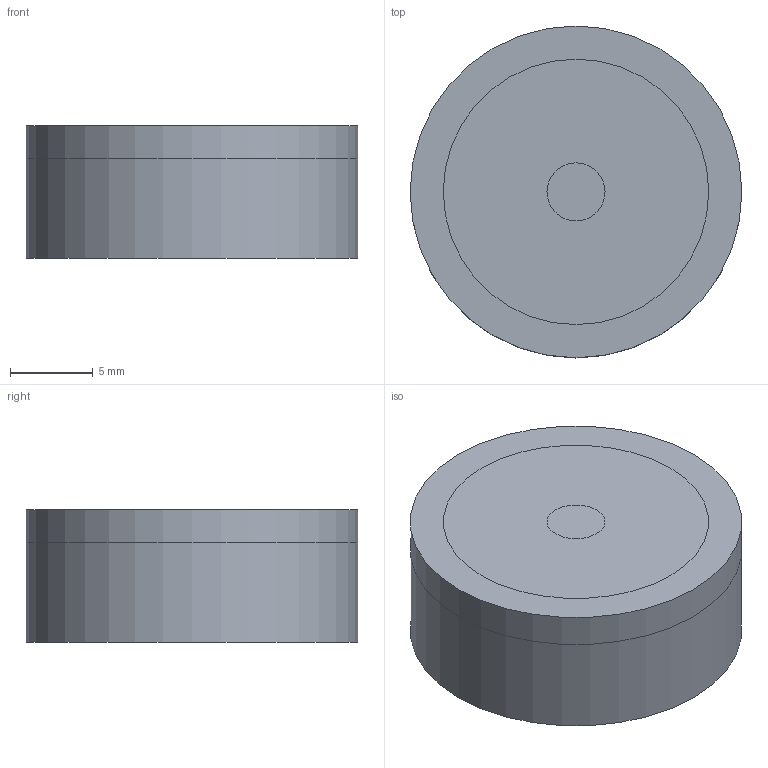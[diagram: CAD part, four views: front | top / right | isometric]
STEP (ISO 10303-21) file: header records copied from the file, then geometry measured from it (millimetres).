
FILE_DESCRIPTION(('FreeCAD Model'),'2;1');
FILE_NAME('Open CASCADE Shape Model','2024-06-10T13:37:33',( 'Thomas Reinhold'),('Eickmann Elektronik GmbH&.Co'), 'Open CASCADE STEP processor 7.6','FreeCAD','Unknown');
FILE_SCHEMA(('AUTOMOTIVE_DESIGN { 1 0 10303 214 1 1 1 1 }'));
Length unit declared in the file: millimetre
Products named in the file (7): Unnamed; Körper; Sketch; Pad; Fillet; Sketch001; Hole
Assembly tree (6 placements, depth 2):
  Unnamed
    Körper
    Sketch
    Pad
    Fillet
    Sketch001
    Hole
Bounding box: 20 x 20 x 8 mm (x, y, z)
Surface area: 4494.2 mm2
Topology: 4 solids, 4 shells, 17 faces, 26 edges, 17 vertices
Faces by surface type: plane 8, cylinder 6, torus 3
Full cylindrical faces by diameter (mm): 3.5 x2, 20 x4
Entity records: 573 total; most frequent: DIRECTION 94, CARTESIAN_POINT 69, ORIENTED_EDGE 48, AXIS2_PLACEMENT_3D 44, EDGE_CURVE 24, FACE_BOUND 21, EDGE_LOOP 21, CIRCLE 20
